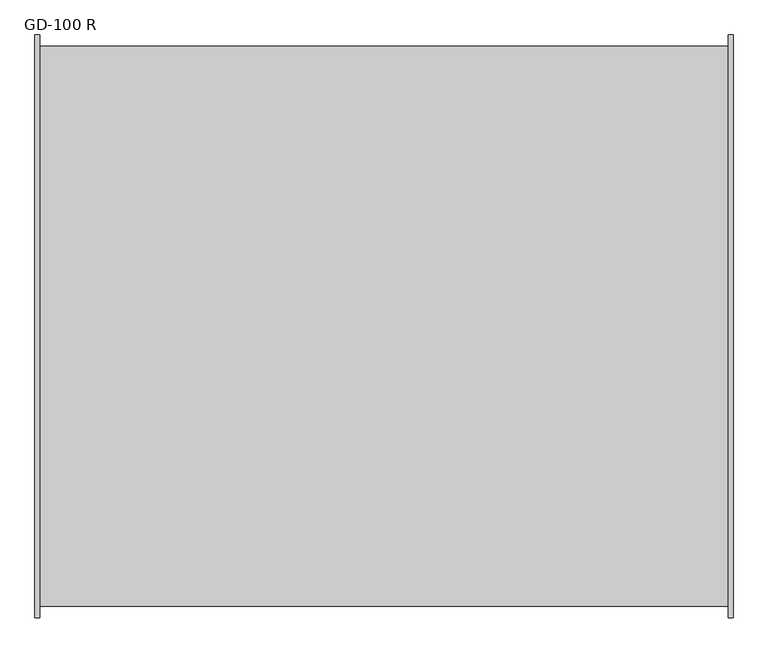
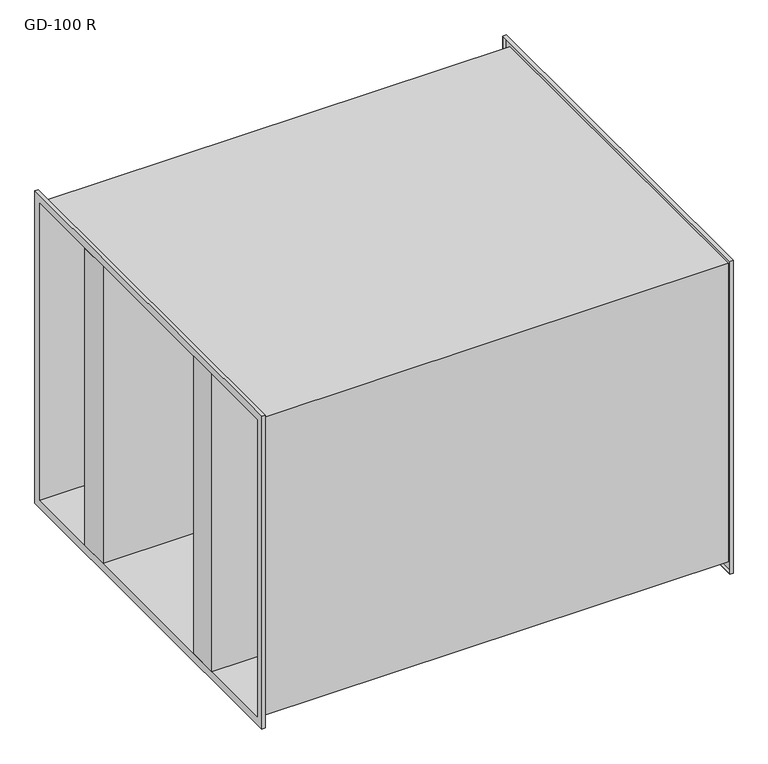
"""IFC4 building model written with IfcOpenShell, lengths in millimetres: damper geometry, NLRS_57_DUA_UN_Coulissengeluiddempers_SMA : GD-100 R."""

from ifc_helpers import new_model, si_unit, frame, origin, place, context, project, spatial, polyline, outline, extrude, faceted_brep, source, transform, mapped, element, save


def gd_100_r_55da12c4(model_context):
    return source(origin(), model_context, "Body", "SolidModel", [
        extrude(outline(polyline([(-750.0, 350.0), (750.0, 350.0), (750.0, 250.0), (-750.0, 250.0), (-750.0, 350.0)])), frame((0.0, 0.0, -500.0), z_axis=(0.0, 0.0, 1.0), x_axis=(1.0, 0.0, 0.0)), (0.0, 0.0, 1.0), 1000.0),
        extrude(outline(polyline([(-750.0, -250.0), (750.0, -250.0), (750.0, -350.0), (-750.0, -350.0), (-750.0, -250.0)])), frame((0.0, 0.0, -500.0), z_axis=(0.0, 0.0, 1.0), x_axis=(1.0, 0.0, 0.0)), (0.0, 0.0, 1.0), 1000.0),
        faceted_brep([(-748.0, 602.0, 502.0), (748.0, 602.0, 502.0), (748.0, 602.0, -502.0), (-748.0, 602.0, -502.0), (-739.5, 624.0, 524.0), (-748.0, 624.0, 524.0), (-748.0, 624.0, -524.0), (-739.5, 624.0, -524.0), (-750.0, 626.0, 526.0), (-739.5, 626.0, 526.0), (-739.5, 626.0, -526.0), (-750.0, 626.0, -526.0), (750.0, 600.0, 500.0), (-750.0, 600.0, 500.0), (-750.0, 600.0, -500.0), (750.0, 600.0, -500.0), (739.5, 626.0, 526.0), (750.0, 626.0, 526.0), (750.0, 626.0, -526.0), (739.5, 626.0, -526.0), (748.0, 624.0, 524.0), (739.5, 624.0, 524.0), (739.5, 624.0, -524.0), (748.0, 624.0, -524.0), (748.0, -602.0, -502.0), (-748.0, -602.0, -502.0), (-748.0, -624.0, -524.0), (-739.5, -624.0, -524.0), (-739.5, -626.0, -526.0), (-750.0, -626.0, -526.0), (-750.0, -600.0, -500.0), (750.0, -600.0, -500.0), (750.0, -626.0, -526.0), (739.5, -626.0, -526.0), (739.5, -624.0, -524.0), (748.0, -624.0, -524.0), (748.0, -602.0, 502.0), (-748.0, -602.0, 502.0), (-748.0, -624.0, 524.0), (-739.5, -624.0, 524.0), (-739.5, -626.0, 526.0), (-750.0, -626.0, 526.0), (-750.0, -600.0, 500.0), (750.0, -600.0, 500.0), (750.0, -626.0, 526.0), (739.5, -626.0, 526.0), (739.5, -624.0, 524.0), (748.0, -624.0, 524.0)], [[[0, 1, 2, 3]], [[4, 5, 6, 7]], [[8, 9, 10, 11]], [[12, 13, 14, 15]], [[16, 17, 18, 19]], [[20, 21, 22, 23]], [[3, 2, 24, 25]], [[7, 6, 26, 27]], [[11, 10, 28, 29]], [[15, 14, 30, 31]], [[19, 18, 32, 33]], [[23, 22, 34, 35]], [[25, 24, 36, 37]], [[27, 26, 38, 39]], [[29, 28, 40, 41]], [[31, 30, 42, 43]], [[33, 32, 44, 45]], [[35, 34, 46, 47]], [[23, 35, 47, 20], [1, 36, 24, 2]], [[37, 36, 1, 0]], [[5, 38, 26, 6], [3, 25, 37, 0]], [[39, 38, 5, 4]], [[9, 40, 28, 10], [7, 27, 39, 4]], [[41, 40, 9, 8]], [[11, 29, 41, 8], [13, 42, 30, 14]], [[43, 42, 13, 12]], [[17, 44, 32, 18], [15, 31, 43, 12]], [[45, 44, 17, 16]], [[19, 33, 45, 16], [21, 46, 34, 22]], [[47, 46, 21, 20]]]),
    ])


if __name__ == "__main__":
    model = new_model("IFC4")
    model_context = context("Model", 3, world=origin())
    ifc_project = project(units=[si_unit("LENGTHUNIT", "METRE", prefix="MILLI")], contexts=[model_context])
    site = spatial("IfcSite", under=ifc_project)
    building = spatial("IfcBuilding", under=site)
    placement = place(None, origin())
    gd_100_r_shape = gd_100_r_55da12c4(model_context)
    element("IfcDamper", 1, ObjectType="NLRS_57_DUA_UN_Coulissengeluiddempers_SMA : GD-100 R", at=placement, inside=building, context=model_context, shape_type="MappedRepresentation", body=[
        mapped(gd_100_r_shape, transform((0.0, 0.0, 0.0), x_axis=(1.0, 0.0, 0.0), y_axis=(0.0, 1.0, 0.0), z_axis=(0.0, 0.0, 1.0))),
    ])
    save(model, "model.ifc")
